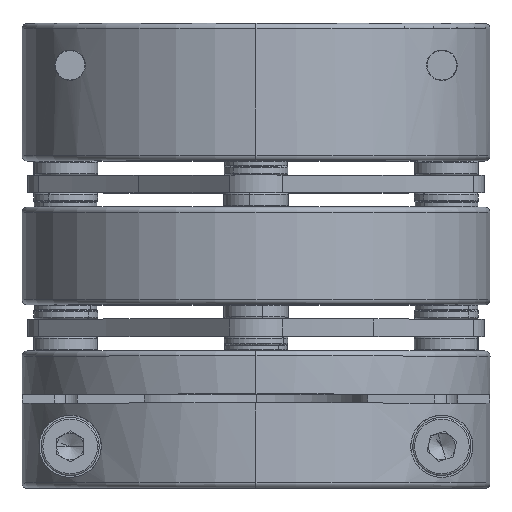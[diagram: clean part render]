
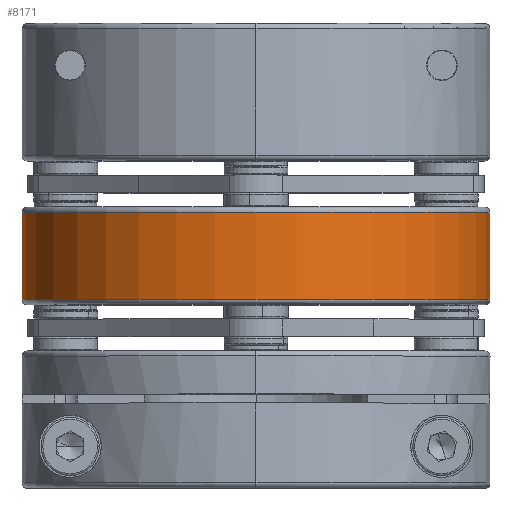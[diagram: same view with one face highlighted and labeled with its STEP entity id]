
A CAD part, top view. The second image highlights one B-rep face of the part: STEP entity #8171.
In plain terms, the highlighted cylindrical face has radius 52.25 mm (diameter 104.5 mm), a partial arc.
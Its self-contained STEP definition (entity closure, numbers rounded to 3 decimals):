
#931 = AXIS2_PLACEMENT_3D ( 'NONE', #15697, #15698, #15699 ) ;
#932 = AXIS2_PLACEMENT_3D ( 'NONE', #15700, #15701, #15702 ) ;
#1969 = EDGE_LOOP ( 'NONE', ( #22541, #22540, #22539, #22538 ) ) ;
#6567 = FACE_OUTER_BOUND ( 'NONE', #1969, .T. ) ;
#6575 = CYLINDRICAL_SURFACE ( 'NONE', #20176, 52.25 ) ;
#8171 = ADVANCED_FACE ( 'NONE', ( #6567 ), #6575, .T. ) ;
#8322 = CARTESIAN_POINT ( 'NONE',  ( 52.25, -61.6, 0. ) ) ;
#8323 = CARTESIAN_POINT ( 'NONE',  ( -52.25, -61.6, 0. ) ) ;
#8340 = CARTESIAN_POINT ( 'NONE',  ( 52.25, -42.2, 0. ) ) ;
#8383 = CARTESIAN_POINT ( 'NONE',  ( -52.25, -42.2, 0. ) ) ;
#12657 = CARTESIAN_POINT ( 'NONE',  ( 0., -41., 0. ) ) ;
#12677 = DIRECTION ( 'NONE',  ( 0., -1., 0. ) ) ;
#12685 = DIRECTION ( 'NONE',  ( 1., 0., 0. ) ) ;
#14835 = LINE ( 'NONE', #15696, #14842 ) ;
#14838 = LINE ( 'NONE', #15685, #14840 ) ;
#14839 = CIRCLE ( 'NONE', #931, 52.25 ) ;
#14840 = VECTOR ( 'NONE', #15684, 1000. ) ;
#14841 = CIRCLE ( 'NONE', #932, 52.25 ) ;
#14842 = VECTOR ( 'NONE', #15690, 1000. ) ;
#15684 = DIRECTION ( 'NONE',  ( 0., -1., 0. ) ) ;
#15685 = CARTESIAN_POINT ( 'NONE',  ( 52.25, -41., 0. ) ) ;
#15690 = DIRECTION ( 'NONE',  ( 0., -1., 0. ) ) ;
#15696 = CARTESIAN_POINT ( 'NONE',  ( -52.25, -41., 0. ) ) ;
#15697 = CARTESIAN_POINT ( 'NONE',  ( 0., -61.6, 0. ) ) ;
#15698 = DIRECTION ( 'NONE',  ( 0., 1., 0. ) ) ;
#15699 = DIRECTION ( 'NONE',  ( -1., 0., 0. ) ) ;
#15700 = CARTESIAN_POINT ( 'NONE',  ( 0., -42.2, 0. ) ) ;
#15701 = DIRECTION ( 'NONE',  ( 0., -1., 0. ) ) ;
#15702 = DIRECTION ( 'NONE',  ( -1., 0., 0. ) ) ;
#18686 = EDGE_CURVE ( 'NONE', #21405, #21369, #14838, .T. ) ;
#18687 = EDGE_CURVE ( 'NONE', #21371, #21369, #14839, .T. ) ;
#18688 = EDGE_CURVE ( 'NONE', #21491, #21371, #14835, .T. ) ;
#18689 = EDGE_CURVE ( 'NONE', #21405, #21491, #14841, .T. ) ;
#20176 = AXIS2_PLACEMENT_3D ( 'NONE', #12657, #12677, #12685 ) ;
#21369 = VERTEX_POINT ( 'NONE', #8322 ) ;
#21371 = VERTEX_POINT ( 'NONE', #8323 ) ;
#21405 = VERTEX_POINT ( 'NONE', #8340 ) ;
#21491 = VERTEX_POINT ( 'NONE', #8383 ) ;
#22538 = ORIENTED_EDGE ( 'NONE', *, *, #18686, .F. ) ;
#22539 = ORIENTED_EDGE ( 'NONE', *, *, #18687, .T. ) ;
#22540 = ORIENTED_EDGE ( 'NONE', *, *, #18688, .T. ) ;
#22541 = ORIENTED_EDGE ( 'NONE', *, *, #18689, .T. ) ;
